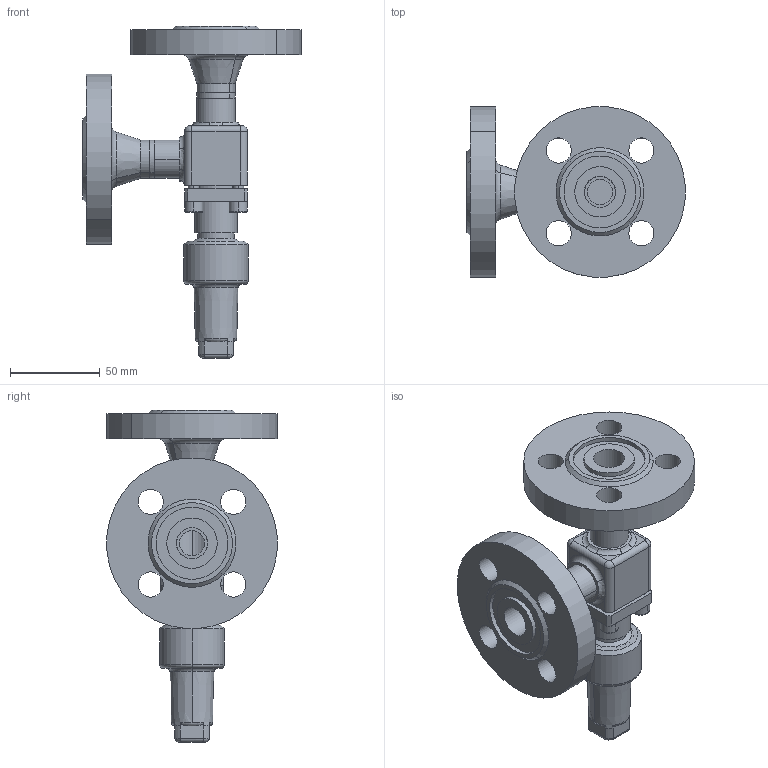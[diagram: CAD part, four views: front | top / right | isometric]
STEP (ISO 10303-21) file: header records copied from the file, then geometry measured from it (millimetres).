
FILE_DESCRIPTION (( 'STEP AP214' ), '1' );
FILE_NAME ('HRAR92420-DN015_DIN-FL-N_PS40.STEP', '2006-05-02T07:38:40', ( 'Herr Grams' ), ( 'AWP GmbH' ), 'SwSTEP 2.0', 'SolidWorks 2002296', '' );
FILE_SCHEMA (( 'AUTOMOTIVE_DESIGN' ));
Length unit declared in the file: millimetre
Products named in the file (10): HRAR92420-DN015_DIN-FL-N_PS40; Kappe96300E10_DN6-20_Standard; Geh-kpl96420E10-DN15_PS40_DIN-FL_Standard; Gehäuse96400E10-DN15_PS40_R1_Standard; Flansch-DIN2635-Nut_PS40_DIN-Flansch-DN015_PS40-Nut; bead964-DN015-1_Standard; bead964-DN015-2_Standard; AVR96300E10_Deck+Schr-DN6-15_Standard; Deckel96300E10-DN6-15_PS40_Standard; Zylinderschraube-DIN912_M 6x 18
Assembly tree (13 placements, depth 3):
  HRAR92420-DN015_DIN-FL-N_PS40
    AVR96300E10_Deck+Schr-DN6-15_Standard
      Deckel96300E10-DN6-15_PS40_Standard
      Zylinderschraube-DIN912_M 6x 18  x4
    Geh-kpl96420E10-DN15_PS40_DIN-FL_Standard
      bead964-DN015-2_Standard
      Gehäuse96400E10-DN15_PS40_R1_Standard
      Flansch-DIN2635-Nut_PS40_DIN-Flansch-DN015_PS40-Nut  x2
      bead964-DN015-1_Standard
    Kappe96300E10_DN6-20_Standard
Bounding box: 121.32 x 94.64 x 184.5 mm (x, y, z)
Volume: 281477.8 mm3; surface area: 79529 mm2
Topology: 11 solids, 11 shells, 314 faces, 701 edges, 434 vertices
Faces by surface type: cylinder 122, plane 95, cone 44, torus 38, bspline 15
Entity records: 13681 total; most frequent: CARTESIAN_POINT 7660, DIRECTION 1169, ORIENTED_EDGE 1030, EDGE_CURVE 515, AXIS2_PLACEMENT_3D 493, VERTEX_POINT 316, EDGE_LOOP 269, CIRCLE 262
